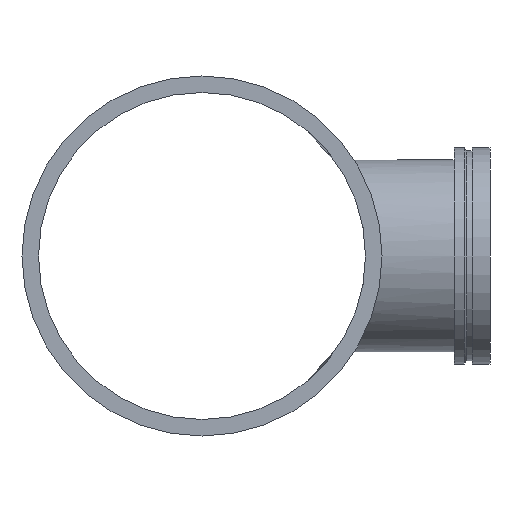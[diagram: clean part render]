
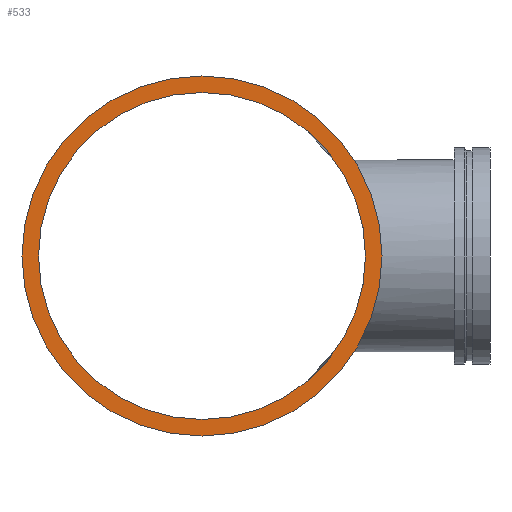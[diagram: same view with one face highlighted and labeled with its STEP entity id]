
A CAD part, left-side view. The second image highlights one B-rep face of the part: STEP entity #533.
In plain terms, the highlighted planar face has unit normal (-1, 0, 0).
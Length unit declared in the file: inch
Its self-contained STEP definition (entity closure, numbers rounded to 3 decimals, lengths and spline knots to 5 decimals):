
#58=FACE_BOUND('',#128,.T.);
#67=PLANE('',#626);
#92=FACE_OUTER_BOUND('',#127,.T.);
#127=EDGE_LOOP('',(#465,#466));
#128=EDGE_LOOP('',(#467,#468));
#151=CIRCLE('',#587,15.);
#152=CIRCLE('',#588,15.);
#175=CIRCLE('',#624,13.625);
#176=CIRCLE('',#625,13.625);
#239=VERTEX_POINT('',#1097);
#240=VERTEX_POINT('',#1099);
#263=VERTEX_POINT('',#1166);
#264=VERTEX_POINT('',#1168);
#299=EDGE_CURVE('',#239,#240,#151,.T.);
#300=EDGE_CURVE('',#240,#239,#152,.T.);
#331=EDGE_CURVE('',#264,#263,#175,.T.);
#332=EDGE_CURVE('',#263,#264,#176,.T.);
#465=ORIENTED_EDGE('',*,*,#300,.F.);
#466=ORIENTED_EDGE('',*,*,#299,.F.);
#467=ORIENTED_EDGE('',*,*,#331,.T.);
#468=ORIENTED_EDGE('',*,*,#332,.T.);
#533=ADVANCED_FACE('',(#92,#58),#67,.T.);
#587=AXIS2_PLACEMENT_3D('',#1100,#716,#717);
#588=AXIS2_PLACEMENT_3D('',#1101,#718,#719);
#624=AXIS2_PLACEMENT_3D('',#1169,#798,#799);
#625=AXIS2_PLACEMENT_3D('',#1170,#800,#801);
#626=AXIS2_PLACEMENT_3D('',#1171,#802,#803);
#716=DIRECTION('center_axis',(1.,0.,0.));
#717=DIRECTION('ref_axis',(0.,0.,1.));
#718=DIRECTION('center_axis',(1.,0.,0.));
#719=DIRECTION('ref_axis',(0.,0.,1.));
#798=DIRECTION('center_axis',(1.,0.,0.));
#799=DIRECTION('ref_axis',(0.,0.,1.));
#800=DIRECTION('center_axis',(1.,0.,0.));
#801=DIRECTION('ref_axis',(0.,0.,1.));
#802=DIRECTION('center_axis',(-1.,0.,0.));
#803=DIRECTION('ref_axis',(0.,0.,-1.));
#1097=CARTESIAN_POINT('',(-26.5,15.,0.));
#1099=CARTESIAN_POINT('',(-26.5,-15.,0.));
#1100=CARTESIAN_POINT('Origin',(-26.5,0.,0.));
#1101=CARTESIAN_POINT('Origin',(-26.5,0.,0.));
#1166=CARTESIAN_POINT('',(-26.5,13.625,0.));
#1168=CARTESIAN_POINT('',(-26.5,-13.625,0.));
#1169=CARTESIAN_POINT('Origin',(-26.5,0.,0.));
#1170=CARTESIAN_POINT('Origin',(-26.5,0.,0.));
#1171=CARTESIAN_POINT('Origin',(-26.5,-15.,0.));
